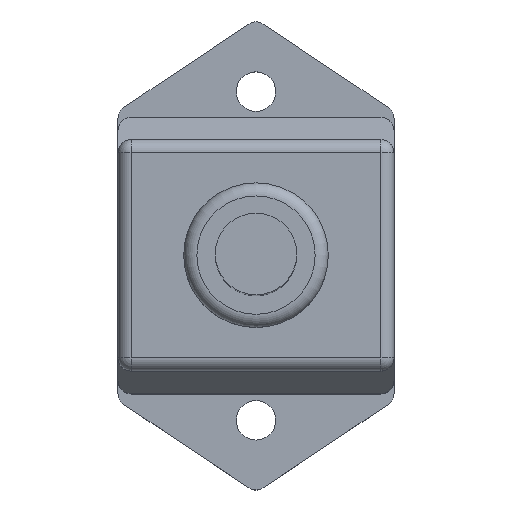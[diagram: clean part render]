
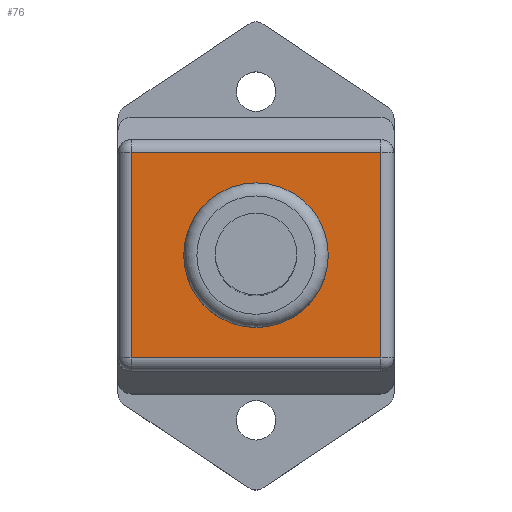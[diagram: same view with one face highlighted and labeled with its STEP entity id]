
A CAD part, top view. The second image highlights one B-rep face of the part: STEP entity #76.
In plain terms, the highlighted planar face has unit normal (0, 0, 1).
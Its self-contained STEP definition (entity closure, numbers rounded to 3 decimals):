
#22 = VERTEX_POINT('',#23);
#23 = CARTESIAN_POINT('',(5.5,0.,32.));
#39 = EDGE_CURVE('',#22,#22,#40,.T.);
#40 = CIRCLE('',#41,5.5);
#41 = AXIS2_PLACEMENT_3D('',#42,#43,#44);
#42 = CARTESIAN_POINT('',(0.,0.,32.));
#43 = DIRECTION('',(0.,0.,1.));
#44 = DIRECTION('',(1.,0.,0.));
#76 = ADVANCED_FACE('',(#77,#111),#114,.T.);
#77 = FACE_BOUND('',#78,.T.);
#78 = EDGE_LOOP('',(#79,#89,#97,#105));
#79 = ORIENTED_EDGE('',*,*,#80,.T.);
#80 = EDGE_CURVE('',#81,#83,#85,.T.);
#81 = VERTEX_POINT('',#82);
#82 = CARTESIAN_POINT('',(-9.5,-7.8,32.));
#83 = VERTEX_POINT('',#84);
#84 = CARTESIAN_POINT('',(9.5,-7.8,32.));
#85 = LINE('',#86,#87);
#86 = CARTESIAN_POINT('',(-10.5,-7.8,32.));
#87 = VECTOR('',#88,1.);
#88 = DIRECTION('',(1.,0.,0.));
#89 = ORIENTED_EDGE('',*,*,#90,.T.);
#90 = EDGE_CURVE('',#83,#91,#93,.T.);
#91 = VERTEX_POINT('',#92);
#92 = CARTESIAN_POINT('',(9.5,7.8,32.));
#93 = LINE('',#94,#95);
#94 = CARTESIAN_POINT('',(9.5,-8.8,32.));
#95 = VECTOR('',#96,1.);
#96 = DIRECTION('',(0.,1.,0.));
#97 = ORIENTED_EDGE('',*,*,#98,.T.);
#98 = EDGE_CURVE('',#91,#99,#101,.T.);
#99 = VERTEX_POINT('',#100);
#100 = CARTESIAN_POINT('',(-9.5,7.8,32.));
#101 = LINE('',#102,#103);
#102 = CARTESIAN_POINT('',(10.5,7.8,32.));
#103 = VECTOR('',#104,1.);
#104 = DIRECTION('',(-1.,0.,0.));
#105 = ORIENTED_EDGE('',*,*,#106,.T.);
#106 = EDGE_CURVE('',#99,#81,#107,.T.);
#107 = LINE('',#108,#109);
#108 = CARTESIAN_POINT('',(-9.5,8.8,32.));
#109 = VECTOR('',#110,1.);
#110 = DIRECTION('',(0.,-1.,0.));
#111 = FACE_BOUND('',#112,.T.);
#112 = EDGE_LOOP('',(#113));
#113 = ORIENTED_EDGE('',*,*,#39,.F.);
#114 = PLANE('',#115);
#115 = AXIS2_PLACEMENT_3D('',#116,#117,#118);
#116 = CARTESIAN_POINT('',(0.,0.,32.));
#117 = DIRECTION('',(0.,0.,1.));
#118 = DIRECTION('',(1.,0.,0.));
